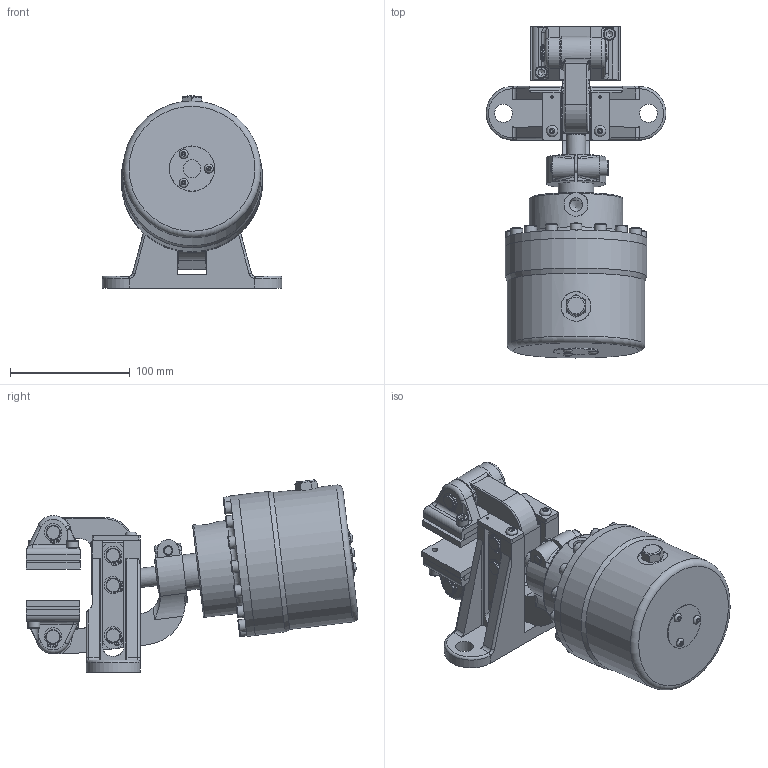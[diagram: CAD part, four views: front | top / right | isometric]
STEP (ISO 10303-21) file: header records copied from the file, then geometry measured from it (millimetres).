
FILE_DESCRIPTION(/* description */ ('','CAx-IF Rec.Pracs.---Representation and Presentation of Product Manufacturing Information (PMI)---4.0---2014-10-13'),/* implementation_level */ '2;1');
FILE_NAME(/* name */ 'X:\INVENTOR\DISEGNI\19_Pinze\STEP x Sito\OLEO-NEGATIVE\19_46_014_04 POD-N014_25,4.stp',/* time_stamp */ '2018-02-23T16:23:29+01:00',/* author */ ('stefano'),/* organization */ (''),/* preprocessor_version */ 'ST-DEVELOPER v17',/* originating_system */ 'Autodesk Inventor 2018',/* authorisation */ '');
FILE_SCHEMA (('AP242_MANAGED_MODEL_BASED_3D_ENGINEERING_MIM_LF { 1 0 10303 442 1 1 4 }'));
Length unit declared in the file: millimetre
Products named in the file (1): 19_46_014_04 POD-N014_25,4_Substitute_1
Bounding box: 150 x 276.94 x 160.41 mm (x, y, z)
Volume: 1273529.1 mm3; surface area: 255772.3 mm2
Topology: 4 solids, 4 shells, 983 faces, 2778 edges, 1869 vertices
Faces by surface type: plane 540, cylinder 286, torus 67, cone 62, bspline 27, sphere 1
Full cylindrical faces by diameter (mm): 1.7 x20, 2 x2, 3.242 x2, 4.917 x8, 5 x2, 7.6 x3, 8 x2, 8.5 x1, 9.5 x4, 10 x25, 10.5 x1, 11.445 x2, 11.5 x10, 12 x23, 13 x1, 13.5 x1, 15 x3, 16 x2, 19 x1, 19.5 x14, 22 x1, 22.6 x1, 24 x1, 25 x1, 30 x1, 38 x1, 55 x1, 78 x1, 96 x1, 115 x1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
Entity records: 37142 total; most frequent: CARTESIAN_POINT 10346, ORIENTED_EDGE 5492, DIRECTION 5450, EDGE_CURVE 2746, AXIS2_PLACEMENT_3D 2060, VERTEX_POINT 1869, LINE 1330, VECTOR 1330
